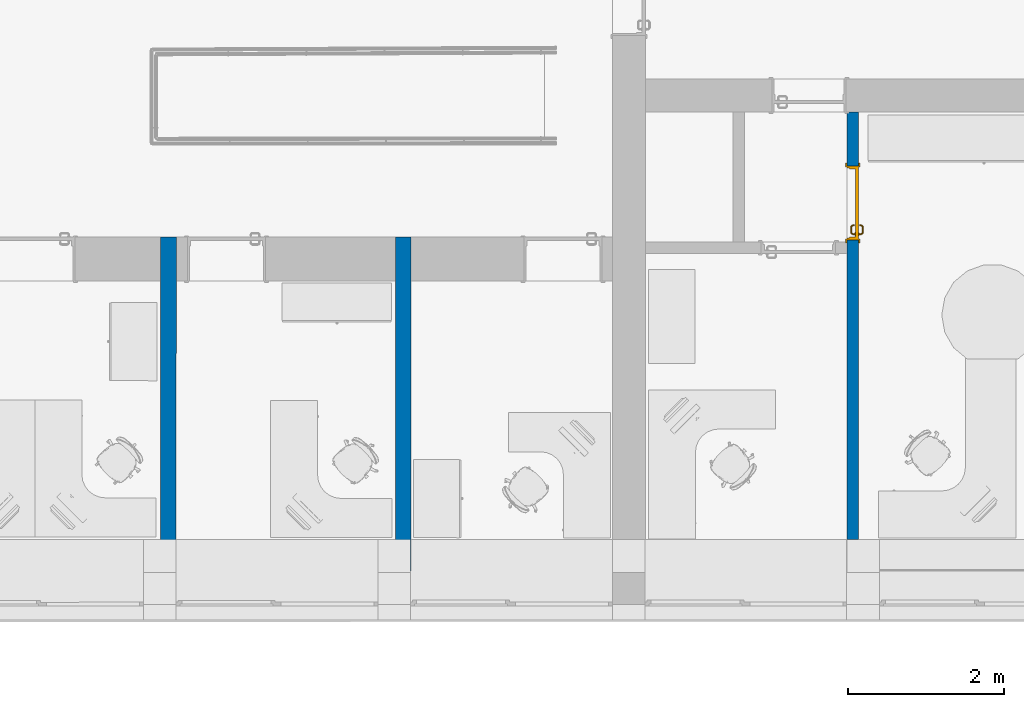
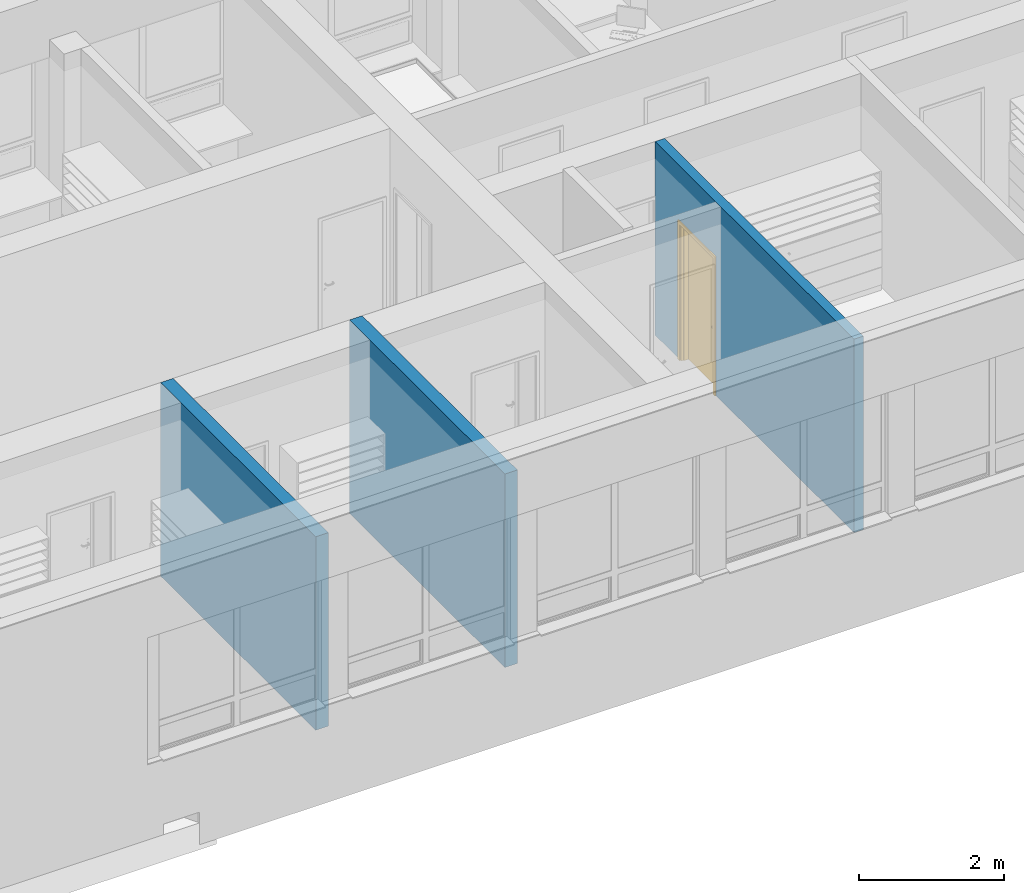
# One storey, part 10 of 194: 3 walls, 1 door, 1 opening.
"""IFC2X3 building model written with IfcOpenShell, lengths in millimetres."""

from ifc_helpers import new_model, entity, si_unit, converted_unit, derived_unit, money_unit, direction, frame, origin_with_axes, origin_2d_with_axis, place, context, subcontext, project, spatial, polyline, rectangle, outline, extrude, open_shell, faceted_brep, surface_model, source, transform, mapped, material, layer, layer_set, layer_usage, type_object, element, fill, save


model = new_model("IFC2X3")

# Units and contexts
model_context = context("Model", 3, precision=1e-05, world=origin_with_axes(), true_north=direction((0.0, 1.0)))
body_context = subcontext(model_context, "Body", "Model", "MODEL_VIEW")
ifc_project = project(units=[si_unit("LENGTHUNIT", "METRE", prefix="MILLI"), si_unit("AREAUNIT", "SQUARE_METRE"), si_unit("VOLUMEUNIT", "CUBIC_METRE"), converted_unit("PLANEANGLEUNIT", "DEGREE", entity("IfcPlaneAngleMeasure", 0.0174532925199), si_unit("PLANEANGLEUNIT", "RADIAN"), dimensions=[0, 0, 0, 0, 0, 0, 0]), si_unit("SOLIDANGLEUNIT", "STERADIAN"), money_unit("EUR"), converted_unit("TIMEUNIT", "Year", entity("IfcTimeMeasure", 31556926.0), si_unit("TIMEUNIT", "SECOND"), dimensions=[0, 0, 1, 0, 0, 0, 0]), si_unit("MASSUNIT", "GRAM", prefix="KILO"), si_unit("THERMODYNAMICTEMPERATUREUNIT", "DEGREE_CELSIUS"), si_unit("LUMINOUSINTENSITYUNIT", "LUMEN"), si_unit("ENERGYUNIT", "JOULE", prefix="MEGA"), derived_unit("THERMALCONDUCTANCEUNIT", [(si_unit("POWERUNIT", "WATT"), 1), (si_unit("LENGTHUNIT", "METRE"), -1), (si_unit("THERMODYNAMICTEMPERATUREUNIT", "KELVIN"), -1)]), derived_unit("SPECIFICHEATCAPACITYUNIT", [(si_unit("ENERGYUNIT", "JOULE"), 1), (si_unit("MASSUNIT", "GRAM", prefix="KILO"), -1), (si_unit("THERMODYNAMICTEMPERATUREUNIT", "KELVIN"), -1)]), derived_unit("MASSDENSITYUNIT", [(si_unit("MASSUNIT", "GRAM", prefix="KILO"), 1), (si_unit("VOLUMEUNIT", "CUBIC_METRE"), -1)])], contexts=[model_context])

# Site, building, storey
site_placement = place(None, origin_with_axes())
site = spatial("IfcSite", under=ifc_project, at=site_placement, Name="Site", CompositionType="ELEMENT")
building_placement = place(site_placement, origin_with_axes())
building = spatial("IfcBuilding", under=site, at=building_placement, Name="Building", CompositionType="ELEMENT")
storey_placement = place(building_placement, frame((0.0, 0.0, 3000.0), z_axis=(0.0, 0.0, 1.0), x_axis=(1.0, 0.0, 0.0)))
storey = spatial("IfcBuildingStorey", under=building, at=storey_placement, Name="2 KORRUS", CompositionType="ELEMENT", Elevation=3000.0)

# Walls
ifc_material_1 = material(Name="Kivi -Ol.Olev Konstruktsioon")
ifc_layer_1 = layer(ifc_material_1, 200.0, ventilated="UNKNOWN")
ifc_layer_set_1 = layer_set([ifc_layer_1], Name="ol.olev ss 200")
ifc_layer_usage_1 = layer_usage(ifc_layer_set_1, "AXIS2", "NEGATIVE", 0.0)
wall_type_1 = type_object("IfcWallType", Name="SW - 022", PredefinedType="NOTDEFINED")
wall_1_placement = place(storey_placement, frame((10155.1528424, 63605.4192071, 0.0), z_axis=(0.0, 0.0, 1.0), x_axis=(-0.000220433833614, -0.999999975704, 0.0)))
element("IfcWallStandardCase", 1, at=wall_1_placement, inside=storey, type_object=wall_type_1, material=ifc_layer_usage_1, Name="ol.olev ss 200", context=body_context, shape_type="SweptSolid", body=[
    extrude(outline(polyline([(0.0, -200.0), (4270.39622095, -200.0), (4270.32390558, 0.0), (0.0, 0.0), (0.0, -200.0)])), origin_with_axes(), (0.0, 0.0, 1.0), 3250.0),
])
ifc_layer_usage_2 = layer_usage(ifc_layer_set_1, "AXIS2", "NEGATIVE", 0.0)
wall_2_placement = place(storey_placement, frame((13157.5891081, 63605.413369, 0.0), z_axis=(0.0, 0.0, 1.0), x_axis=(0.000168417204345, -0.999999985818, 0.0)))
element("IfcWallStandardCase", 2, at=wall_2_placement, inside=storey, type_object=wall_type_1, material=ifc_layer_usage_2, Name="ol.olev ss 200", context=body_context, shape_type="SweptSolid", body=[
    extrude(outline(polyline([(0.0, -200.0), (4269.8885623, -200.0), (4269.89401715, 1.13686837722e-10), (0.0, 0.0), (0.0, -200.0)])), origin_with_axes(), (0.0, 0.0, 1.0), 3250.0),
])

# Wall, opening, door
ifc_material_2 = material(Name="Kivi -  Uus Konstruktsioon")
ifc_layer_2 = layer(ifc_material_2, 150.0, ventilated="UNKNOWN")
ifc_layer_set_2 = layer_set([ifc_layer_2], Name="uus ss 150")
ifc_layer_usage_3 = layer_usage(ifc_layer_set_2, "AXIS2", "NEGATIVE", 0.0)
wall_type_2 = type_object("IfcWallType", Name="SS-2", PredefinedType="NOTDEFINED")
wall_3_placement = place(storey_placement, frame((18734.3034197, 59736.6941374, 0.0), z_axis=(0.0, 0.0, 1.0), x_axis=(5.53840615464e-05, 0.999999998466, 0.0)))
wall_3 = element("IfcWallStandardCase", 3, at=wall_3_placement, inside=storey, type_object=wall_type_2, material=ifc_layer_usage_3, Name="uus ss 150", context=body_context, shape_type="SweptSolid", body=[
    extrude(outline(polyline([(0.0, -150.0), (5473.34253443, -150.0), (5473.33422682, -1.13686837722e-10), (0.0, 0.0), (0.0, -150.0)])), origin_with_axes(), (0.0, 0.0, 1.0), 3250.0),
])
opening_placement = place(wall_3_placement, frame((4306.43265614, 0.0, 0.0), z_axis=(0.0, 0.0, 1.0), x_axis=(1.0, 0.0, 0.0)))
opening = element("IfcOpeningElement", 4, at=opening_placement, cuts=wall_3, Name="Siseuks * Door 22", context=body_context, shape_type="SweptSolid", body=[
    extrude(rectangle(XDim=950.000000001, YDim=2300.0, at=origin_2d_with_axis()), frame((0.0, 150.0, 1150.0), z_axis=(0.0, 1.0, 0.0), x_axis=(1.0, 0.0, 0.0)), (0.0, 0.0, -1.0), 450.0),
    extrude(rectangle(XDim=1024.0, YDim=2337.0, at=origin_2d_with_axis()), frame((0.0, 0.0, 1168.5), z_axis=(0.0, 1.0, 0.0), x_axis=(1.0, 0.0, 0.0)), (0.0, 0.0, 1.0), 150.0),
    extrude(rectangle(XDim=1024.0, YDim=2337.0, at=origin_2d_with_axis()), frame((0.0, -150.0, 1168.5), z_axis=(0.0, -1.0, 0.0), x_axis=(1.0, 0.0, 0.0)), (0.0, 0.0, 1.0), 150.0),
])
door_style = type_object("IfcDoorStyle", Name="SU-A209 C   950×2\xa0300", ConstructionType="NOTDEFINED", OperationType="SINGLE_SWING_LEFT", ParameterTakesPrecedence=False, Sizeable=False)
shared_shape = source(origin_with_axes(), body_context, "Body", "SurfaceModel", [
    faceted_brep([(475.0, -115.0, 0.0), (475.0, -150.0, 0.0), (450.0, -150.0, 0.0), (450.0, -115.0, 0.0), (475.0, -115.0, 2300.0), (475.0, -150.0, 2300.0), (450.0, -150.0, 2275.0), (450.0, -115.0, 2275.0)], [[[0, 1, 2, 3]], [[4, 5, 1, 0]], [[1, 5, 6, 2]], [[3, 2, 6, 7]], [[0, 3, 7, 4]], [[7, 6, 5, 4]]]),
    faceted_brep([(-475.0, -115.0, 2300.0), (-475.0, -150.0, 2300.0), (-450.0, -150.0, 2275.0), (-450.0, -115.0, 2275.0), (-475.0, -115.0, 0.0), (-475.0, -150.0, 0.0), (-450.0, -150.0, 0.0), (-450.0, -115.0, 0.0)], [[[0, 1, 2, 3]], [[4, 5, 1, 0]], [[1, 5, 6, 2]], [[3, 2, 6, 7]], [[0, 3, 7, 4]], [[7, 6, 5, 4]]]),
    faceted_brep([(450.0, -115.0, 2275.0), (450.0, -150.0, 2275.0), (-450.0, -150.0, 2275.0), (-450.0, -115.0, 2275.0), (475.0, -115.0, 2300.0), (475.0, -150.0, 2300.0), (-475.0, -150.0, 2300.0), (-475.0, -115.0, 2300.0)], [[[0, 1, 2, 3]], [[4, 5, 1, 0]], [[1, 5, 6, 2]], [[3, 2, 6, 7]], [[0, 3, 7, 4]], [[7, 6, 5, 4]]]),
    faceted_brep([(512.0, -169.0, 0.0), (462.0, -169.0, 0.0), (462.0, -150.0, 0.0), (512.0, -150.0, 0.0), (512.0, -169.0, 2337.0), (462.0, -169.0, 2287.0), (462.0, -150.0, 2287.0), (512.0, -150.0, 2337.0)], [[[0, 1, 2, 3]], [[0, 4, 5, 1]], [[1, 5, 6, 2]], [[3, 2, 6, 7]], [[4, 0, 3, 7]], [[5, 4, 7, 6]]]),
    faceted_brep([(-512.0, -169.0, 2337.0), (-462.0, -169.0, 2287.0), (-462.0, -150.0, 2287.0), (-512.0, -150.0, 2337.0), (-512.0, -169.0, 0.0), (-462.0, -169.0, 0.0), (-462.0, -150.0, 0.0), (-512.0, -150.0, 0.0)], [[[0, 1, 2, 3]], [[0, 4, 5, 1]], [[1, 5, 6, 2]], [[3, 2, 6, 7]], [[4, 0, 3, 7]], [[5, 4, 7, 6]]]),
    faceted_brep([(512.0, -169.0, 2337.0), (462.0, -169.0, 2287.0), (462.0, -150.0, 2287.0), (512.0, -150.0, 2337.0), (-512.0, -169.0, 2337.0), (-462.0, -169.0, 2287.0), (-462.0, -150.0, 2287.0), (-512.0, -150.0, 2337.0)], [[[0, 1, 2, 3]], [[0, 4, 5, 1]], [[1, 5, 6, 2]], [[3, 2, 6, 7]], [[4, 0, 3, 7]], [[5, 4, 7, 6]]]),
    faceted_brep([(512.0, 19.0, 0.0), (512.0, 0.0, 0.0), (462.0, 0.0, 0.0), (462.0, 19.0, 0.0), (512.0, 19.0, 2337.0), (512.0, 0.0, 2337.0), (462.0, 0.0, 2287.0), (462.0, 19.0, 2287.0)], [[[0, 1, 2, 3]], [[4, 5, 1, 0]], [[1, 5, 6, 2]], [[3, 2, 6, 7]], [[0, 3, 7, 4]], [[7, 6, 5, 4]]]),
    faceted_brep([(-512.0, 19.0, 2337.0), (-512.0, 0.0, 2337.0), (-462.0, 0.0, 2287.0), (-462.0, 19.0, 2287.0), (-512.0, 19.0, 0.0), (-512.0, 0.0, 0.0), (-462.0, 0.0, 0.0), (-462.0, 19.0, 0.0)], [[[0, 1, 2, 3]], [[4, 5, 1, 0]], [[1, 5, 6, 2]], [[3, 2, 6, 7]], [[0, 3, 7, 4]], [[7, 6, 5, 4]]]),
    faceted_brep([(512.0, 19.0, 2337.0), (512.0, 0.0, 2337.0), (462.0, 0.0, 2287.0), (462.0, 19.0, 2287.0), (-512.0, 19.0, 2337.0), (-512.0, 0.0, 2337.0), (-462.0, 0.0, 2287.0), (-462.0, 19.0, 2287.0)], [[[0, 1, 2, 3]], [[4, 5, 1, 0]], [[1, 5, 6, 2]], [[3, 2, 6, 7]], [[0, 3, 7, 4]], [[7, 6, 5, 4]]]),
    faceted_brep([(435.0, -40.0, 0.0), (435.0, -115.0, 0.0), (435.0, -115.0, 2260.0), (435.0, -40.0, 2260.0), (447.0, -40.0, 0.0), (447.0, 0.0, 0.0), (475.0, 0.0, 0.0), (475.0, -115.0, 0.0), (475.0, -115.0, 2260.0), (447.0, -40.0, 2260.0), (475.0, 0.0, 2260.0), (447.0, 0.0, 2260.0)], [[[0, 1, 2, 3]], [[4, 5, 6, 7, 1, 0]], [[1, 7, 8, 2]], [[9, 3, 2, 8, 10, 11]], [[9, 4, 0, 3]], [[11, 5, 4, 9]], [[11, 10, 6, 5]], [[6, 10, 8, 7]]]),
    faceted_brep([(-447.0, -40.0, 2260.0), (-447.0, 0.0, 2260.0), (-475.0, 0.0, 2260.0), (-475.0, -115.0, 2260.0), (-435.0, -115.0, 2260.0), (-435.0, -40.0, 2260.0), (-447.0, -40.0, 0.0), (-447.0, 0.0, 0.0), (-475.0, 0.0, 0.0), (-475.0, -115.0, 0.0), (-435.0, -115.0, 0.0), (-435.0, -40.0, 0.0)], [[[0, 1, 2, 3, 4, 5]], [[0, 6, 7, 1]], [[7, 8, 2, 1]], [[2, 8, 9, 3]], [[3, 9, 10, 4]], [[5, 4, 10, 11]], [[5, 11, 6, 0]], [[6, 11, 10, 9, 8, 7]]]),
    faceted_brep([(447.0, 0.0, 2272.0), (-447.0, 0.0, 2272.0), (-447.0, 0.0, 2260.0), (-475.0, 0.0, 2260.0), (-475.0, 0.0, 2300.0), (475.0, 0.0, 2300.0), (475.0, 0.0, 2260.0), (447.0, 0.0, 2260.0), (447.0, -40.0, 2272.0), (-447.0, -40.0, 2272.0), (-447.0, -40.0, 2260.0), (-435.0, -40.0, 2260.0), (-435.0, -115.0, 2260.0), (-475.0, -115.0, 2260.0), (-475.0, -115.0, 2300.0), (475.0, -115.0, 2300.0), (475.0, -115.0, 2260.0), (447.0, -40.0, 2260.0), (435.0, -115.0, 2260.0), (435.0, -40.0, 2260.0)], [[[0, 1, 2, 3, 4, 5, 6, 7]], [[0, 8, 9, 1]], [[1, 9, 10, 2]], [[10, 11, 12, 13, 3, 2]], [[4, 3, 13, 14]], [[5, 4, 14, 15]], [[6, 5, 15, 16]], [[17, 7, 6, 16, 18, 19]], [[7, 17, 8, 0]], [[10, 9, 8, 17, 19, 11]], [[19, 18, 12, 11]], [[12, 18, 16, 15, 14, 13]]]),
    faceted_brep([(425.5, -40.0, 1060.0), (368.5, -40.0, 1060.0), (368.5, -43.0, 1060.0), (425.5, -43.0, 1060.0), (425.5, -40.0, 870.0), (368.5, -40.0, 870.0), (368.5, -43.0, 870.0), (425.5, -43.0, 870.0)], [[[0, 1, 2, 3]], [[0, 4, 5, 1]], [[1, 5, 6, 2]], [[3, 2, 6, 7]], [[4, 0, 3, 7]], [[5, 4, 7, 6]]]),
    surface_model("IfcShellBasedSurfaceModel", [(387.0, -53.0, 1000.0), (389.928932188, -53.0, 992.928932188), (389.928932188, -72.303560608, 992.928932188), (387.0, -72.0150859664, 1000.0), (397.0, -53.0, 990.0), (397.0, -73.0, 990.0), (388.816790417, -77.8946748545, 992.928932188), (386.057796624, -76.751862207, 1000.0), (389.928932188, -53.0, 1007.07106781), (389.928932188, -72.303560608, 1007.07106781), (404.071067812, -53.0, 992.928932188), (404.071067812, -73.696439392, 992.928932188), (395.47759065, -80.6536686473, 990.0), (386.044179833, -82.0441798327, 992.928932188), (383.932537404, -79.9325374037, 1000.0), (388.816790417, -77.8946748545, 1007.07106781), (397.0, -53.0, 1010.0), (397.0, -73.0, 1010.0), (407.0, -53.0, 1000.0), (407.0, -73.9849140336, 1000.0), (402.138390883, -83.4126624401, 992.928932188), (391.142135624, -87.1421356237, 990.0), (381.894674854, -84.8167904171, 992.928932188), (380.751862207, -82.0577966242, 1000.0), (386.044179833, -82.0441798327, 1007.07106781), (395.47759065, -80.6536686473, 1010.0), (404.071067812, -53.0, 1007.07106781), (404.071067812, -73.696439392, 1007.07106781), (404.897384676, -84.5554750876, 1000.0), (396.240091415, -92.2400914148, 992.928932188), (384.653668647, -91.4775906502, 990.0), (376.303560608, -85.9289321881, 992.928932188), (376.015085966, -83.0, 1000.0), (381.894674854, -84.8167904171, 1007.07106781), (391.142135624, -87.1421356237, 1010.0), (402.138390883, -83.4126624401, 1007.07106781), (398.351733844, -94.3517338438, 1000.0), (387.41266244, -98.1383908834, 992.928932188), (377.0, -93.0, 990.0), (307.696439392, -85.9289321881, 992.928932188), (307.984914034, -83.0, 1000.0), (376.303560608, -85.9289321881, 1007.07106781), (384.653668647, -91.4775906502, 1010.0), (396.240091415, -92.2400914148, 1007.07106781), (388.555475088, -100.897384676, 1000.0), (377.696439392, -100.071067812, 992.928932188), (307.0, -93.0, 990.0), (302.105325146, -84.8167904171, 992.928932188), (303.248137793, -82.0577966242, 1000.0), (307.696439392, -85.9289321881, 1007.07106781), (377.0, -93.0, 1010.0), (387.41266244, -98.1383908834, 1007.07106781), (377.984914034, -103.0, 1000.0), (306.303560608, -100.071067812, 992.928932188), (299.346331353, -91.4775906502, 990.0), (297.955820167, -82.0441798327, 992.928932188), (300.067462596, -79.9325374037, 1000.0), (302.105325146, -84.8167904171, 1007.07106781), (307.0, -93.0, 1010.0), (377.696439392, -100.071067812, 1007.07106781), (306.015085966, -103.0, 1000.0), (296.58733756, -98.1383908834, 992.928932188), (292.857864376, -87.1421356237, 990.0), (295.183209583, -77.8946748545, 992.928932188), (297.942203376, -76.751862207, 1000.0), (297.955820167, -82.0441798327, 1007.07106781), (299.346331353, -91.4775906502, 1010.0), (306.303560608, -100.071067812, 1007.07106781), (295.444524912, -100.897384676, 1000.0), (287.759908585, -92.2400914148, 992.928932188), (288.52240935, -80.6536686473, 990.0), (294.071067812, -72.303560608, 992.928932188), (297.0, -72.0150859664, 1000.0), (295.183209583, -77.8946748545, 1007.07106781), (292.857864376, -87.1421356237, 1010.0), (296.58733756, -98.1383908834, 1007.07106781), (285.648266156, -94.3517338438, 1000.0), (281.861609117, -83.4126624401, 992.928932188), (287.0, -73.0, 990.0), (294.071067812, -53.0, 992.928932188), (297.0, -53.0, 1000.0), (294.071067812, -72.303560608, 1007.07106781), (288.52240935, -80.6536686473, 1010.0), (287.759908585, -92.2400914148, 1007.07106781), (279.102615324, -84.5554750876, 1000.0), (279.928932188, -73.696439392, 992.928932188), (287.0, -53.0, 990.0), (279.928932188, -53.0, 992.928932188), (277.0, -53.0, 1000.0), (279.928932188, -53.0, 1007.07106781), (287.0, -53.0, 1010.0), (294.071067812, -53.0, 1007.07106781), (287.0, -73.0, 1010.0), (281.861609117, -83.4126624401, 1007.07106781), (277.0, -73.9849140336, 1000.0), (279.928932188, -73.696439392, 1007.07106781)], [open_shell([[[0, 1, 2, 3]], [[1, 4, 5, 2]], [[3, 2, 6, 7]], [[8, 0, 3, 9]], [[4, 10, 11, 5]], [[2, 5, 12, 6]], [[7, 6, 13, 14]], [[9, 3, 7, 15]], [[16, 8, 9, 17]], [[10, 18, 19, 11]], [[5, 11, 20, 12]], [[6, 12, 21, 13]], [[14, 13, 22, 23]], [[15, 7, 14, 24]], [[17, 9, 15, 25]], [[26, 16, 17, 27]], [[18, 26, 27, 19]], [[11, 19, 28, 20]], [[12, 20, 29, 21]], [[13, 21, 30, 22]], [[23, 22, 31, 32]], [[24, 14, 23, 33]], [[25, 15, 24, 34]], [[27, 17, 25, 35]], [[19, 27, 35, 28]], [[20, 28, 36, 29]], [[21, 29, 37, 30]], [[22, 30, 38, 31]], [[32, 31, 39, 40]], [[33, 23, 32, 41]], [[34, 24, 33, 42]], [[35, 25, 34, 43]], [[28, 35, 43, 36]], [[29, 36, 44, 37]], [[30, 37, 45, 38]], [[31, 38, 46, 39]], [[40, 39, 47, 48]], [[41, 32, 40, 49]], [[42, 33, 41, 50]], [[43, 34, 42, 51]], [[36, 43, 51, 44]], [[37, 44, 52, 45]], [[38, 45, 53, 46]], [[39, 46, 54, 47]], [[48, 47, 55, 56]], [[49, 40, 48, 57]], [[50, 41, 49, 58]], [[51, 42, 50, 59]], [[44, 51, 59, 52]], [[45, 52, 60, 53]], [[46, 53, 61, 54]], [[47, 54, 62, 55]], [[56, 55, 63, 64]], [[57, 48, 56, 65]], [[58, 49, 57, 66]], [[59, 50, 58, 67]], [[52, 59, 67, 60]], [[53, 60, 68, 61]], [[54, 61, 69, 62]], [[55, 62, 70, 63]], [[64, 63, 71, 72]], [[65, 56, 64, 73]], [[66, 57, 65, 74]], [[67, 58, 66, 75]], [[60, 67, 75, 68]], [[61, 68, 76, 69]], [[62, 69, 77, 70]], [[63, 70, 78, 71]], [[72, 71, 79, 80]], [[73, 64, 72, 81]], [[74, 65, 73, 82]], [[75, 66, 74, 83]], [[68, 75, 83, 76]], [[69, 76, 84, 77]], [[70, 77, 85, 78]], [[71, 78, 86, 79]], [[80, 79, 86, 87, 88, 89, 90, 91]], [[81, 72, 80, 91]], [[82, 73, 81, 92]], [[83, 74, 82, 93]], [[76, 83, 93, 84]], [[77, 84, 94, 85]], [[78, 85, 87, 86]], [[85, 94, 88, 87]], [[94, 95, 89, 88]], [[95, 92, 90, 89]], [[92, 81, 91, 90]], [[93, 82, 92, 95]], [[84, 93, 95, 94]]])]),
    faceted_brep([(386.607695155, -53.0, 994.0), (385.0, -53.0, 1000.0), (384.0, -43.0, 1000.0), (385.741669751, -43.0, 993.5), (391.0, -53.0, 989.607695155), (397.0, -53.0, 988.0), (403.0, -53.0, 989.607695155), (407.392304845, -53.0, 994.0), (409.0, -53.0, 1000.0), (407.392304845, -53.0, 1006.0), (403.0, -53.0, 1010.39230485), (397.0, -53.0, 1012.0), (391.0, -53.0, 1010.39230485), (386.607695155, -53.0, 1006.0), (385.741669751, -43.0, 1006.5), (390.5, -43.0, 1011.25833025), (397.0, -43.0, 1013.0), (403.5, -43.0, 1011.25833025), (408.258330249, -43.0, 1006.5), (410.0, -43.0, 1000.0), (408.258330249, -43.0, 993.5), (403.5, -43.0, 988.741669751), (397.0, -43.0, 987.0), (390.5, -43.0, 988.741669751)], [[[0, 1, 2, 3]], [[1, 0, 4, 5, 6, 7, 8, 9, 10, 11, 12, 13]], [[1, 13, 14, 2]], [[2, 14, 15, 16, 17, 18, 19, 20, 21, 22, 23, 3]], [[4, 0, 3, 23]], [[5, 4, 23, 22]], [[6, 5, 22, 21]], [[7, 6, 21, 20]], [[8, 7, 20, 19]], [[9, 8, 19, 18]], [[10, 9, 18, 17]], [[11, 10, 17, 16]], [[12, 11, 16, 15]], [[13, 12, 15, 14]]]),
    faceted_brep([(379.679491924, -47.0, 895.0), (377.0, -47.0, 905.0), (375.0, -43.0, 905.0), (377.947441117, -43.0, 894.0), (387.0, -47.0, 887.679491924), (397.0, -47.0, 885.0), (407.0, -47.0, 887.679491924), (414.320508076, -47.0, 895.0), (417.0, -47.0, 905.0), (414.320508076, -47.0, 915.0), (407.0, -47.0, 922.320508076), (397.0, -47.0, 925.0), (387.0, -47.0, 922.320508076), (379.679491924, -47.0, 915.0), (377.947441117, -43.0, 916.0), (386.0, -43.0, 924.052558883), (397.0, -43.0, 927.0), (408.0, -43.0, 924.052558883), (416.052558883, -43.0, 916.0), (419.0, -43.0, 905.0), (416.052558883, -43.0, 894.0), (408.0, -43.0, 885.947441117), (397.0, -43.0, 883.0), (386.0, -43.0, 885.947441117)], [[[0, 1, 2, 3]], [[1, 0, 4, 5, 6, 7, 8, 9, 10, 11, 12, 13]], [[1, 13, 14, 2]], [[2, 14, 15, 16, 17, 18, 19, 20, 21, 22, 23, 3]], [[4, 0, 3, 23]], [[5, 4, 23, 22]], [[6, 5, 22, 21]], [[7, 6, 21, 20]], [[8, 7, 20, 19]], [[9, 8, 19, 18]], [[10, 9, 18, 17]], [[11, 10, 17, 16]], [[12, 11, 16, 15]], [[13, 12, 15, 14]]]),
    faceted_brep([(392.050252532, -49.0, 909.050252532), (390.0, -49.0, 914.0), (389.0, -47.0, 914.0), (391.343145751, -47.0, 908.343145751), (397.0, -49.0, 907.0), (401.949747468, -49.0, 909.050252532), (404.0, -49.0, 914.0), (401.949747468, -49.0, 918.949747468), (397.0, -49.0, 921.0), (392.050252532, -49.0, 918.949747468), (391.343145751, -47.0, 919.656854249), (397.0, -47.0, 922.0), (402.656854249, -47.0, 919.656854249), (405.0, -47.0, 914.0), (402.656854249, -47.0, 908.343145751), (397.0, -47.0, 906.0)], [[[0, 1, 2, 3]], [[1, 0, 4, 5, 6, 7, 8, 9]], [[1, 9, 10, 2]], [[2, 10, 11, 12, 13, 14, 15, 3]], [[4, 0, 3, 15]], [[5, 4, 15, 14]], [[6, 5, 14, 13]], [[7, 6, 13, 12]], [[8, 7, 12, 11]], [[9, 8, 11, 10]]]),
    faceted_brep([(425.5, 0.0, 1060.0), (425.5, 3.0, 1060.0), (368.5, 3.0, 1060.0), (368.5, 0.0, 1060.0), (425.5, 0.0, 870.0), (425.5, 3.0, 870.0), (368.5, 3.0, 870.0), (368.5, 0.0, 870.0)], [[[0, 1, 2, 3]], [[4, 5, 1, 0]], [[1, 5, 6, 2]], [[3, 2, 6, 7]], [[0, 3, 7, 4]], [[7, 6, 5, 4]]]),
    surface_model("IfcShellBasedSurfaceModel", [(387.0, 13.0, 1000.0), (387.0, 32.0150859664, 1000.0), (389.928932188, 32.303560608, 992.928932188), (389.928932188, 13.0, 992.928932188), (389.928932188, 13.0, 1007.07106781), (389.928932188, 32.303560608, 1007.07106781), (386.057796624, 36.751862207, 1000.0), (388.816790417, 37.8946748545, 992.928932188), (397.0, 33.0, 990.0), (397.0, 13.0, 990.0), (397.0, 13.0, 1010.0), (397.0, 33.0, 1010.0), (388.816790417, 37.8946748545, 1007.07106781), (383.932537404, 39.9325374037, 1000.0), (386.044179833, 42.0441798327, 992.928932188), (395.47759065, 40.6536686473, 990.0), (404.071067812, 33.696439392, 992.928932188), (404.071067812, 13.0, 992.928932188), (404.071067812, 13.0, 1007.07106781), (404.071067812, 33.696439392, 1007.07106781), (395.47759065, 40.6536686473, 1010.0), (386.044179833, 42.0441798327, 1007.07106781), (380.751862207, 42.0577966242, 1000.0), (381.894674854, 44.8167904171, 992.928932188), (391.142135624, 47.1421356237, 990.0), (402.138390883, 43.4126624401, 992.928932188), (407.0, 33.9849140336, 1000.0), (407.0, 13.0, 1000.0), (402.138390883, 43.4126624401, 1007.07106781), (391.142135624, 47.1421356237, 1010.0), (381.894674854, 44.8167904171, 1007.07106781), (376.015085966, 43.0, 1000.0), (376.303560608, 45.9289321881, 992.928932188), (384.653668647, 51.4775906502, 990.0), (396.240091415, 52.2400914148, 992.928932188), (404.897384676, 44.5554750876, 1000.0), (396.240091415, 52.2400914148, 1007.07106781), (384.653668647, 51.4775906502, 1010.0), (376.303560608, 45.9289321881, 1007.07106781), (307.984914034, 43.0, 1000.0), (307.696439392, 45.9289321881, 992.928932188), (377.0, 53.0, 990.0), (387.41266244, 58.1383908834, 992.928932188), (398.351733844, 54.3517338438, 1000.0), (387.41266244, 58.1383908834, 1007.07106781), (377.0, 53.0, 1010.0), (307.696439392, 45.9289321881, 1007.07106781), (303.248137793, 42.0577966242, 1000.0), (302.105325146, 44.8167904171, 992.928932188), (307.0, 53.0, 990.0), (377.696439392, 60.0710678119, 992.928932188), (388.555475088, 60.8973846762, 1000.0), (377.696439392, 60.0710678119, 1007.07106781), (307.0, 53.0, 1010.0), (302.105325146, 44.8167904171, 1007.07106781), (300.067462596, 39.9325374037, 1000.0), (297.955820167, 42.0441798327, 992.928932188), (299.346331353, 51.4775906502, 990.0), (306.303560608, 60.0710678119, 992.928932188), (377.984914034, 63.0, 1000.0), (306.303560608, 60.0710678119, 1007.07106781), (299.346331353, 51.4775906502, 1010.0), (297.955820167, 42.0441798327, 1007.07106781), (297.942203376, 36.751862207, 1000.0), (295.183209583, 37.8946748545, 992.928932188), (292.857864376, 47.1421356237, 990.0), (296.58733756, 58.1383908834, 992.928932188), (306.015085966, 63.0, 1000.0), (296.58733756, 58.1383908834, 1007.07106781), (292.857864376, 47.1421356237, 1010.0), (295.183209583, 37.8946748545, 1007.07106781), (297.0, 32.0150859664, 1000.0), (294.071067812, 32.303560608, 992.928932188), (288.52240935, 40.6536686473, 990.0), (287.759908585, 52.2400914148, 992.928932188), (295.444524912, 60.8973846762, 1000.0), (287.759908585, 52.2400914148, 1007.07106781), (288.52240935, 40.6536686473, 1010.0), (294.071067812, 32.303560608, 1007.07106781), (297.0, 13.0, 1000.0), (294.071067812, 13.0, 992.928932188), (287.0, 33.0, 990.0), (281.861609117, 43.4126624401, 992.928932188), (285.648266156, 54.3517338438, 1000.0), (281.861609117, 43.4126624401, 1007.07106781), (287.0, 33.0, 1010.0), (294.071067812, 13.0, 1007.07106781), (287.0, 13.0, 1010.0), (279.928932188, 13.0, 1007.07106781), (277.0, 13.0, 1000.0), (279.928932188, 13.0, 992.928932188), (287.0, 13.0, 990.0), (279.928932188, 33.696439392, 992.928932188), (279.102615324, 44.5554750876, 1000.0), (279.928932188, 33.696439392, 1007.07106781), (277.0, 33.9849140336, 1000.0)], [open_shell([[[0, 1, 2, 3]], [[4, 5, 1, 0]], [[1, 6, 7, 2]], [[3, 2, 8, 9]], [[10, 11, 5, 4]], [[5, 12, 6, 1]], [[6, 13, 14, 7]], [[2, 7, 15, 8]], [[9, 8, 16, 17]], [[18, 19, 11, 10]], [[11, 20, 12, 5]], [[12, 21, 13, 6]], [[13, 22, 23, 14]], [[7, 14, 24, 15]], [[8, 15, 25, 16]], [[17, 16, 26, 27]], [[27, 26, 19, 18]], [[19, 28, 20, 11]], [[20, 29, 21, 12]], [[21, 30, 22, 13]], [[22, 31, 32, 23]], [[14, 23, 33, 24]], [[15, 24, 34, 25]], [[16, 25, 35, 26]], [[26, 35, 28, 19]], [[28, 36, 29, 20]], [[29, 37, 30, 21]], [[30, 38, 31, 22]], [[31, 39, 40, 32]], [[23, 32, 41, 33]], [[24, 33, 42, 34]], [[25, 34, 43, 35]], [[35, 43, 36, 28]], [[36, 44, 37, 29]], [[37, 45, 38, 30]], [[38, 46, 39, 31]], [[39, 47, 48, 40]], [[32, 40, 49, 41]], [[33, 41, 50, 42]], [[34, 42, 51, 43]], [[43, 51, 44, 36]], [[44, 52, 45, 37]], [[45, 53, 46, 38]], [[46, 54, 47, 39]], [[47, 55, 56, 48]], [[40, 48, 57, 49]], [[41, 49, 58, 50]], [[42, 50, 59, 51]], [[51, 59, 52, 44]], [[52, 60, 53, 45]], [[53, 61, 54, 46]], [[54, 62, 55, 47]], [[55, 63, 64, 56]], [[48, 56, 65, 57]], [[49, 57, 66, 58]], [[50, 58, 67, 59]], [[59, 67, 60, 52]], [[60, 68, 61, 53]], [[61, 69, 62, 54]], [[62, 70, 63, 55]], [[63, 71, 72, 64]], [[56, 64, 73, 65]], [[57, 65, 74, 66]], [[58, 66, 75, 67]], [[67, 75, 68, 60]], [[68, 76, 69, 61]], [[69, 77, 70, 62]], [[70, 78, 71, 63]], [[71, 79, 80, 72]], [[64, 72, 81, 73]], [[65, 73, 82, 74]], [[66, 74, 83, 75]], [[75, 83, 76, 68]], [[76, 84, 77, 69]], [[77, 85, 78, 70]], [[78, 86, 79, 71]], [[79, 86, 87, 88, 89, 90, 91, 80]], [[72, 80, 91, 81]], [[73, 81, 92, 82]], [[74, 82, 93, 83]], [[83, 93, 84, 76]], [[84, 94, 85, 77]], [[85, 87, 86, 78]], [[94, 88, 87, 85]], [[95, 89, 88, 94]], [[92, 90, 89, 95]], [[81, 91, 90, 92]], [[82, 92, 95, 93]], [[93, 95, 94, 84]]])]),
    faceted_brep([(386.607695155, 13.0, 994.0), (385.741669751, 3.0, 993.5), (384.0, 3.0, 1000.0), (385.0, 13.0, 1000.0), (391.0, 13.0, 989.607695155), (390.5, 3.0, 988.741669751), (397.0, 3.0, 987.0), (403.5, 3.0, 988.741669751), (408.258330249, 3.0, 993.5), (410.0, 3.0, 1000.0), (408.258330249, 3.0, 1006.5), (403.5, 3.0, 1011.25833025), (397.0, 3.0, 1013.0), (390.5, 3.0, 1011.25833025), (385.741669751, 3.0, 1006.5), (386.607695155, 13.0, 1006.0), (391.0, 13.0, 1010.39230485), (397.0, 13.0, 1012.0), (403.0, 13.0, 1010.39230485), (407.392304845, 13.0, 1006.0), (409.0, 13.0, 1000.0), (407.392304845, 13.0, 994.0), (403.0, 13.0, 989.607695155), (397.0, 13.0, 988.0)], [[[0, 1, 2, 3]], [[4, 5, 1, 0]], [[2, 1, 5, 6, 7, 8, 9, 10, 11, 12, 13, 14]], [[3, 2, 14, 15]], [[3, 15, 16, 17, 18, 19, 20, 21, 22, 23, 4, 0]], [[23, 6, 5, 4]], [[22, 7, 6, 23]], [[21, 8, 7, 22]], [[20, 9, 8, 21]], [[19, 10, 9, 20]], [[18, 11, 10, 19]], [[17, 12, 11, 18]], [[16, 13, 12, 17]], [[15, 14, 13, 16]]]),
    faceted_brep([(379.679491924, 7.0, 895.0), (377.947441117, 3.0, 894.0), (375.0, 3.0, 905.0), (377.0, 7.0, 905.0), (387.0, 7.0, 887.679491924), (386.0, 3.0, 885.947441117), (397.0, 3.0, 883.0), (408.0, 3.0, 885.947441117), (416.052558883, 3.0, 894.0), (419.0, 3.0, 905.0), (416.052558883, 3.0, 916.0), (408.0, 3.0, 924.052558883), (397.0, 3.0, 927.0), (386.0, 3.0, 924.052558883), (377.947441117, 3.0, 916.0), (379.679491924, 7.0, 915.0), (387.0, 7.0, 922.320508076), (397.0, 7.0, 925.0), (407.0, 7.0, 922.320508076), (414.320508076, 7.0, 915.0), (417.0, 7.0, 905.0), (414.320508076, 7.0, 895.0), (407.0, 7.0, 887.679491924), (397.0, 7.0, 885.0)], [[[0, 1, 2, 3]], [[4, 5, 1, 0]], [[2, 1, 5, 6, 7, 8, 9, 10, 11, 12, 13, 14]], [[3, 2, 14, 15]], [[3, 15, 16, 17, 18, 19, 20, 21, 22, 23, 4, 0]], [[23, 6, 5, 4]], [[22, 7, 6, 23]], [[21, 8, 7, 22]], [[20, 9, 8, 21]], [[19, 10, 9, 20]], [[18, 11, 10, 19]], [[17, 12, 11, 18]], [[16, 13, 12, 17]], [[15, 14, 13, 16]]]),
    faceted_brep([(392.050252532, 9.0, 909.050252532), (391.343145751, 7.0, 908.343145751), (389.0, 7.0, 914.0), (390.0, 9.0, 914.0), (397.0, 9.0, 907.0), (397.0, 7.0, 906.0), (402.656854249, 7.0, 908.343145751), (405.0, 7.0, 914.0), (402.656854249, 7.0, 919.656854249), (397.0, 7.0, 922.0), (391.343145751, 7.0, 919.656854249), (392.050252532, 9.0, 918.949747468), (397.0, 9.0, 921.0), (401.949747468, 9.0, 918.949747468), (404.0, 9.0, 914.0), (401.949747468, 9.0, 909.050252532)], [[[0, 1, 2, 3]], [[4, 5, 1, 0]], [[2, 1, 5, 6, 7, 8, 9, 10]], [[3, 2, 10, 11]], [[3, 11, 12, 13, 14, 15, 4, 0]], [[15, 6, 5, 4]], [[14, 7, 6, 15]], [[13, 8, 7, 14]], [[12, 9, 8, 13]], [[11, 10, 9, 12]]]),
    faceted_brep([(-447.0, 0.0, 0.0), (447.0, 0.0, 0.0), (447.0, -40.0, 0.0), (-447.0, -40.0, 0.0), (-447.0, 0.0, 2272.0), (447.0, 0.0, 2272.0), (447.0, -40.0, 2272.0), (-447.0, -40.0, 2272.0)], [[[0, 1, 2, 3]], [[0, 4, 5, 1]], [[1, 5, 6, 2]], [[3, 2, 6, 7]], [[4, 0, 3, 7]], [[5, 4, 7, 6]]]),
])
door_placement = place(opening_placement, frame((475.0, 0.0, 0.0), z_axis=(0.0, 0.0, 1.0), x_axis=(-1.0, 0.0, 0.0)))
door = element("IfcDoor", 5, at=door_placement, inside=storey, type_object=door_style, Name="Siseuks * Door 22", OverallHeight=2300.0, OverallWidth=950.0, context=body_context, shape_type="MappedRepresentation", body=[
    mapped(shared_shape, transform((475.0, 150.0, 0.0))),
])
fill(opening, door)

save(model, "model.ifc")
